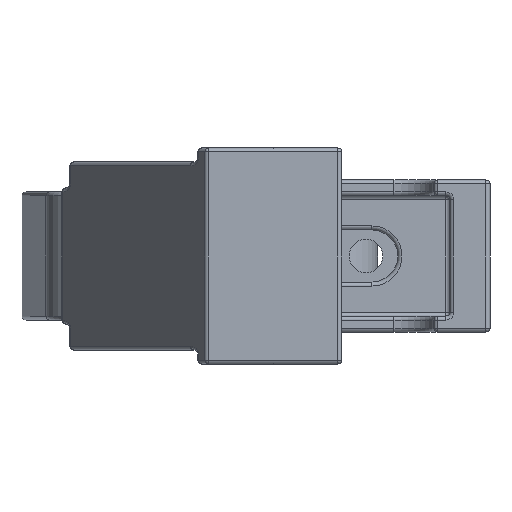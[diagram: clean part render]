
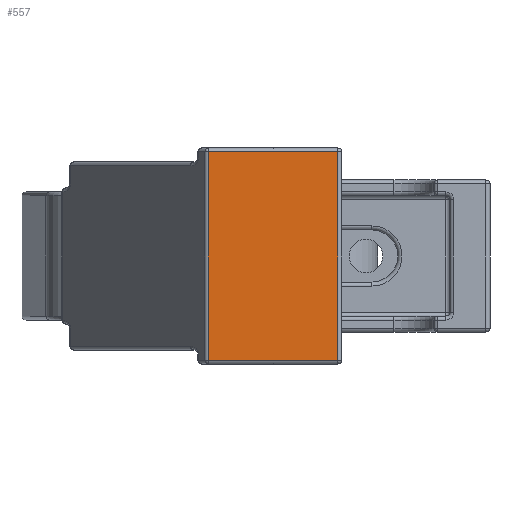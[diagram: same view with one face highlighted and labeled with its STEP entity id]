
A CAD part, left-side view. The second image highlights one B-rep face of the part: STEP entity #557.
In plain terms, the highlighted planar face has unit normal (-1, 0, 0) as drawn and (1, 0, 0) by its records, which use the part's own axes.
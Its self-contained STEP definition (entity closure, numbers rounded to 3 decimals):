
#56 = CARTESIAN_POINT ( 'NONE',  ( 131., 0., 0.5 ) ) ;
#425 = EDGE_CURVE ( 'NONE', #10032, #5828, #1051, .T. ) ;
#557 = ADVANCED_FACE ( 'NONE', ( #10216 ), #4557, .F. ) ;
#665 = CARTESIAN_POINT ( 'NONE',  ( 131., 0., 26.5 ) ) ;
#696 = AXIS2_PLACEMENT_3D ( 'NONE', #6659, #10270, #10232 ) ;
#773 = DIRECTION ( 'NONE',  ( 0., -1., 0. ) ) ;
#870 = EDGE_CURVE ( 'NONE', #9044, #10032, #4670, .T. ) ;
#1051 = LINE ( 'NONE', #8908, #2738 ) ;
#2190 = CARTESIAN_POINT ( 'NONE',  ( 131., 16.716, 0.5 ) ) ;
#2522 = ORIENTED_EDGE ( 'NONE', *, *, #6741, .T. ) ;
#2546 = DIRECTION ( 'NONE',  ( 0., 1., 0. ) ) ;
#2738 = VECTOR ( 'NONE', #8969, 1000. ) ;
#2812 = DIRECTION ( 'NONE',  ( 0., 0., 1. ) ) ;
#3058 = ORIENTED_EDGE ( 'NONE', *, *, #425, .T. ) ;
#4365 = EDGE_LOOP ( 'NONE', ( #3058, #9917, #2522, #7223 ) ) ;
#4390 = VECTOR ( 'NONE', #773, 1000. ) ;
#4557 = PLANE ( 'NONE',  #696 ) ;
#4670 = LINE ( 'NONE', #665, #4390 ) ;
#5460 = VERTEX_POINT ( 'NONE', #2190 ) ;
#5734 = VECTOR ( 'NONE', #2546, 1000. ) ;
#5828 = VERTEX_POINT ( 'NONE', #6277 ) ;
#6277 = CARTESIAN_POINT ( 'NONE',  ( 131., 0.5, 0.5 ) ) ;
#6280 = LINE ( 'NONE', #56, #5734 ) ;
#6659 = CARTESIAN_POINT ( 'NONE',  ( 131., 0., 27. ) ) ;
#6741 = EDGE_CURVE ( 'NONE', #5460, #9044, #7991, .T. ) ;
#7223 = ORIENTED_EDGE ( 'NONE', *, *, #870, .T. ) ;
#7669 = EDGE_CURVE ( 'NONE', #5828, #5460, #6280, .T. ) ;
#7727 = CARTESIAN_POINT ( 'NONE',  ( 131., 0.5, 26.5 ) ) ;
#7991 = LINE ( 'NONE', #8620, #9900 ) ;
#8620 = CARTESIAN_POINT ( 'NONE',  ( 131., 16.716, 27. ) ) ;
#8908 = CARTESIAN_POINT ( 'NONE',  ( 131., 0.5, 27. ) ) ;
#8969 = DIRECTION ( 'NONE',  ( 0., 0., -1. ) ) ;
#9044 = VERTEX_POINT ( 'NONE', #9476 ) ;
#9476 = CARTESIAN_POINT ( 'NONE',  ( 131., 16.716, 26.5 ) ) ;
#9900 = VECTOR ( 'NONE', #2812, 1000. ) ;
#9917 = ORIENTED_EDGE ( 'NONE', *, *, #7669, .T. ) ;
#10032 = VERTEX_POINT ( 'NONE', #7727 ) ;
#10216 = FACE_OUTER_BOUND ( 'NONE', #4365, .T. ) ;
#10232 = DIRECTION ( 'NONE',  ( 0., 0., 1. ) ) ;
#10270 = DIRECTION ( 'NONE',  ( -1., 0., 0. ) ) ;
